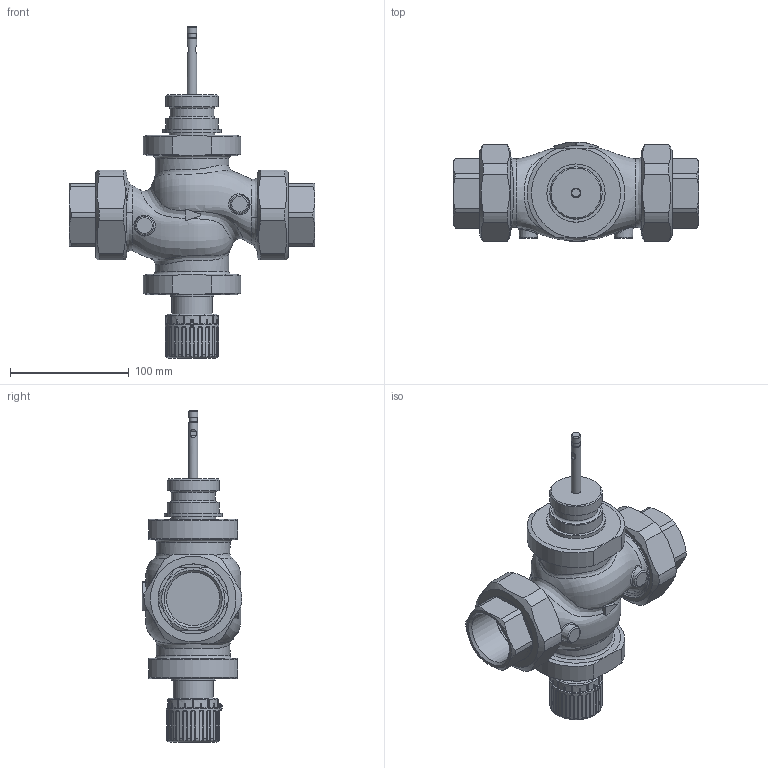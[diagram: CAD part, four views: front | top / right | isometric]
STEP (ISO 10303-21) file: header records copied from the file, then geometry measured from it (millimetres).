
FILE_DESCRIPTION(/* description */ (''),/* implementation_level */ '2;1');
FILE_NAME(/* name */ 'rv122_T_dn40_T.stp',/* time_stamp */ '2025-07-09T08:27:08+02:00',/* author */ ('Jan Novák'),/* organization */ ('LDM'),/* preprocessor_version */ 'ST-DEVELOPER v18.102',/* originating_system */ 'SIEMENS PLM Software NX2206.3001',/* authorisation */ '');
FILE_SCHEMA (('AUTOMOTIVE_DESIGN { 1 0 10303 214 3 1 1 1 }'));
Length unit declared in the file: millimetre
Products named in the file (1): rv_0767-770_rv122_T_dn40_objects
Bounding box: 207 x 83.98 x 279.4 mm (x, y, z)
Volume: 1082868 mm3; surface area: 141418 mm2
Topology: 7 solids, 7 shells, 577 faces, 1421 edges, 880 vertices
Faces by surface type: cylinder 210, plane 175, bspline 97, torus 52, cone 43
Full cylindrical faces by diameter (mm): 2 x1, 2.5 x1, 7 x1, 8 x2, 33.8 x1, 37 x2, 38 x1, 43 x1, 44 x2, 44.845 x2, 49 x1, 50 x4, 58.8 x2, 59 x2, 62 x4, 62.6 x2, 62.752 x2, 65.71 x2
Entity records: 30068 total; most frequent: CARTESIAN_POINT 17589, ORIENTED_EDGE 2624, DIRECTION 2372, EDGE_CURVE 1312, AXIS2_PLACEMENT_3D 985, VERTEX_POINT 841, EDGE_LOOP 681, ADVANCED_FACE 575
